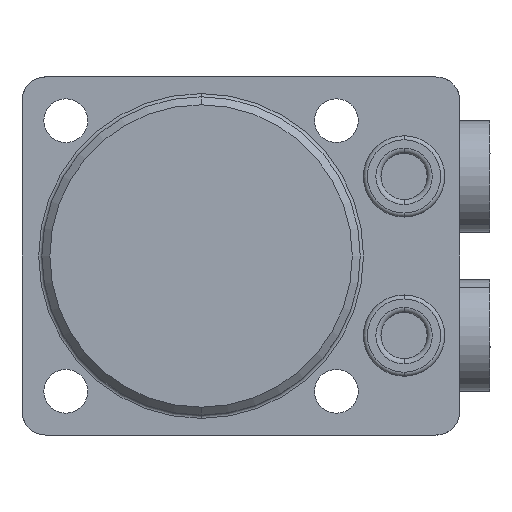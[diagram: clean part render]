
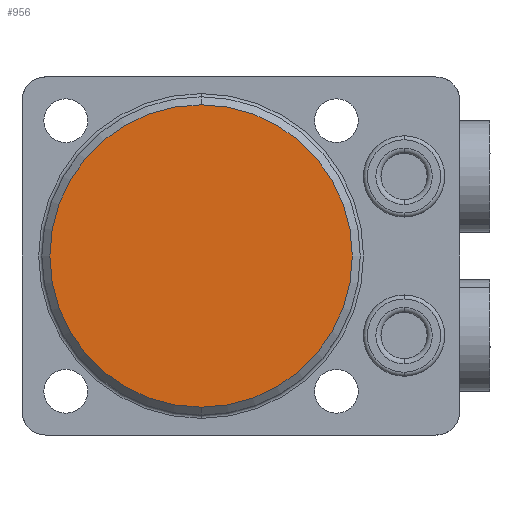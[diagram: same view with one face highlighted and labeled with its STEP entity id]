
A CAD part, front view. The second image highlights one B-rep face of the part: STEP entity #956.
In plain terms, the highlighted planar face has unit normal (0, -1, 0).
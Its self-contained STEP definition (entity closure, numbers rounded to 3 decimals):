
#692=PLANE('',#3589);
#956=ADVANCED_FACE('',(#1147),#692,.F.);
#1147=FACE_OUTER_BOUND('',#1330,.T.);
#1330=EDGE_LOOP('',(#2215,#2216));
#2215=ORIENTED_EDGE('',*,*,#3021,.T.);
#2216=ORIENTED_EDGE('',*,*,#2962,.T.);
#2640=VERTEX_POINT('',#5293);
#2641=VERTEX_POINT('',#5294);
#2962=EDGE_CURVE('',#2640,#2641,#3226,.T.);
#3021=EDGE_CURVE('',#2641,#2640,#3247,.T.);
#3226=CIRCLE('',#3556,19.);
#3247=CIRCLE('',#3588,19.);
#3556=AXIS2_PLACEMENT_3D('',#5292,#4337,#4338);
#3588=AXIS2_PLACEMENT_3D('',#5524,#4419,#4420);
#3589=AXIS2_PLACEMENT_3D('',#5525,#4421,#4422);
#4337=DIRECTION('',(0.,-1.,0.));
#4338=DIRECTION('',(0.,0.,1.));
#4419=DIRECTION('',(0.,-1.,0.));
#4420=DIRECTION('',(0.,0.,1.));
#4421=DIRECTION('',(0.,1.,0.));
#4422=DIRECTION('',(0.,0.,-1.));
#5292=CARTESIAN_POINT('',(0.,-30.,0.));
#5293=CARTESIAN_POINT('',(0.,-30.,-19.));
#5294=CARTESIAN_POINT('',(0.,-30.,19.));
#5524=CARTESIAN_POINT('',(0.,-30.,0.));
#5525=CARTESIAN_POINT('',(0.,-30.,0.));
